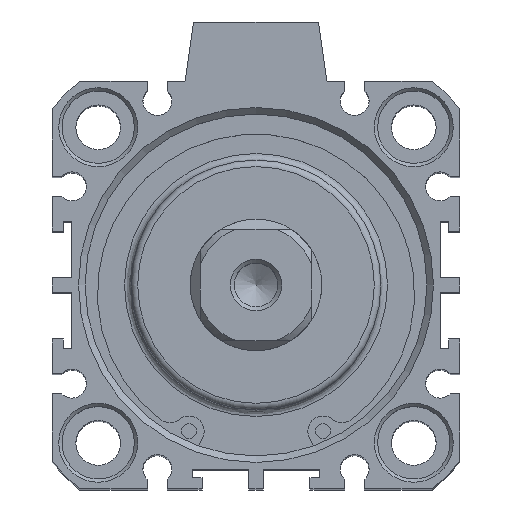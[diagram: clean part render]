
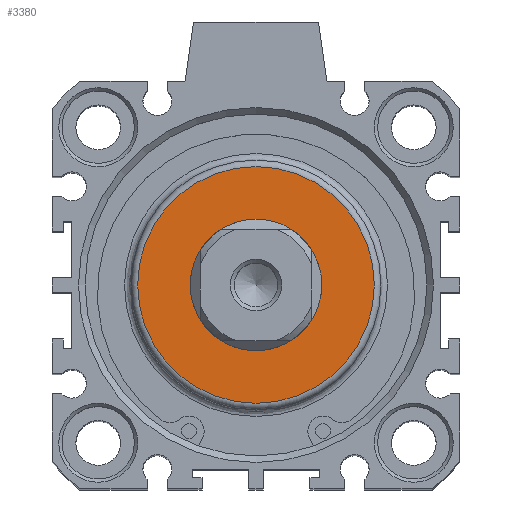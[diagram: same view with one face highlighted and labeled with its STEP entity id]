
A CAD part, top view. The second image highlights one B-rep face of the part: STEP entity #3380.
In plain terms, the highlighted planar face has unit normal (0, 0, 1).
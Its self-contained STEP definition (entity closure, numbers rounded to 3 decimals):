
#2900=CARTESIAN_POINT('',(-7.057,11.794,107.5));
#2901=VERTEX_POINT('',#2900);
#2902=CARTESIAN_POINT('',(-7.057,1.794,107.5));
#2903=DIRECTION('',(0.0,0.0,-1.0));
#2904=DIRECTION('',(0.0,1.0,0.0));
#2905=AXIS2_PLACEMENT_3D('',#2902,#2903,#2904);
#2906=CIRCLE('',#2905,10.);
#2907=EDGE_CURVE('',#2901,#2901,#2906,.T.);
#3354=CARTESIAN_POINT('',(-7.057,19.794,107.5));
#3355=VERTEX_POINT('',#3354);
#3356=CARTESIAN_POINT('',(-7.057,1.794,107.5));
#3357=DIRECTION('',(0.0,0.0,-1.0));
#3358=DIRECTION('',(0.0,-1.0,0.0));
#3359=AXIS2_PLACEMENT_3D('',#3356,#3357,#3358);
#3360=CIRCLE('',#3359,18.);
#3361=EDGE_CURVE('',#3355,#3355,#3360,.T.);
#3369=CARTESIAN_POINT('',(-7.057,11.294,107.5));
#3370=DIRECTION('',(0.0,0.0,1.0));
#3371=DIRECTION('',(1.0,0.0,0.0));
#3372=AXIS2_PLACEMENT_3D('',#3369,#3370,#3371);
#3373=PLANE('',#3372);
#3374=ORIENTED_EDGE('',*,*,#3361,.F.);
#3375=EDGE_LOOP('',(#3374));
#3376=FACE_OUTER_BOUND('',#3375,.T.);
#3377=ORIENTED_EDGE('',*,*,#2907,.T.);
#3378=EDGE_LOOP('',(#3377));
#3379=FACE_BOUND('',#3378,.T.);
#3380=ADVANCED_FACE('',(#3376,#3379),#3373,.T.);
